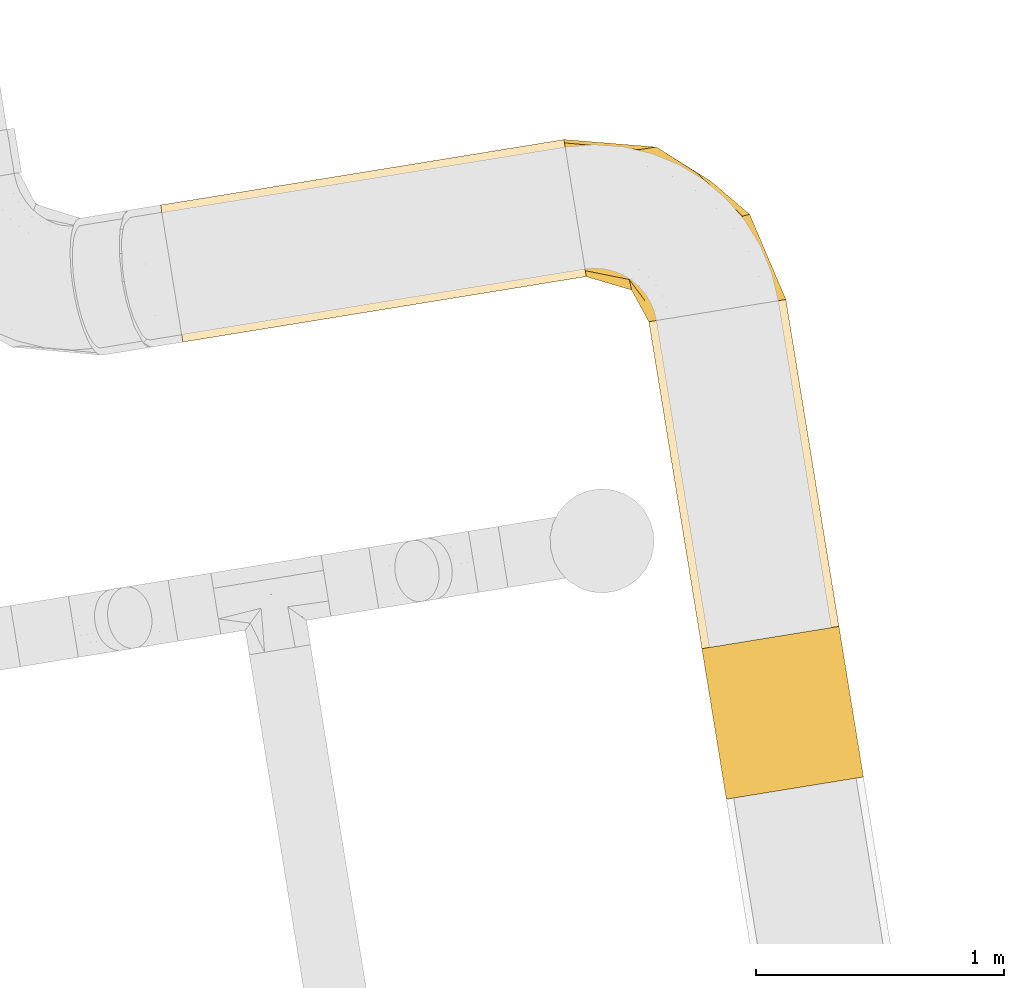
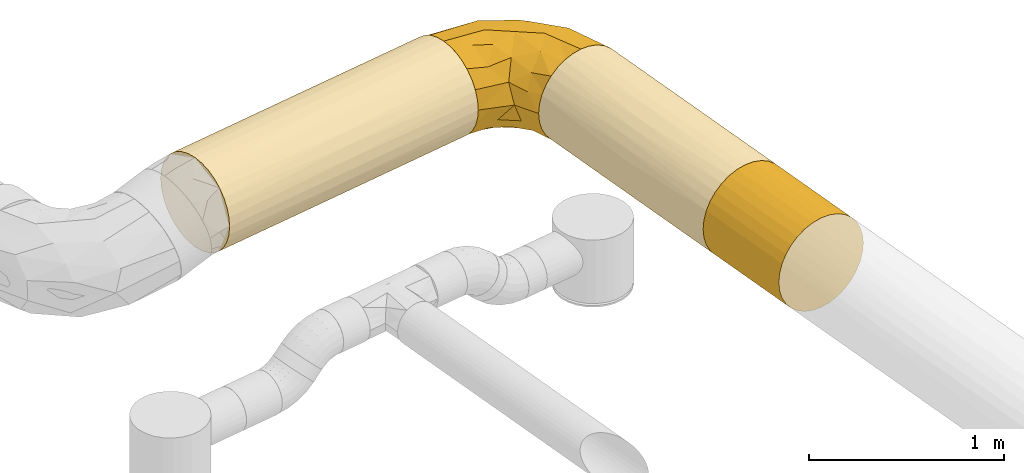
# One storey, part 6 of 39: 4 coverings.
"""IFC2X3 building model written with IfcOpenShell, lengths in millimetres."""

from ifc_helpers import new_model, entity, si_unit, converted_unit, derived_unit, direction, frame, origin, origin_with_axes, place, context, subcontext, project, spatial, faceted_brep, type_object, element, save


model = new_model("IFC2X3")

# Units and contexts
model_context = context("Model", 3, precision=0.01, world=origin(), true_north=direction((6.12323399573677e-17, 1.0)))
plan_context = context("Plan", 3, precision=1e-05, world=origin_with_axes())
body_context = subcontext(model_context, "Body", "Model", "MODEL_VIEW")
ifc_project = project(units=[converted_unit("PLANEANGLEUNIT", "DEGREE", entity("IfcPositiveLengthMeasure", 0.0174532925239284), si_unit("PLANEANGLEUNIT", "RADIAN"), dimensions=[0, 0, 0, 0, 0, 0, 0]), si_unit("AREAUNIT", "SQUARE_METRE"), si_unit("LENGTHUNIT", "METRE", prefix="MILLI"), si_unit("MASSUNIT", "GRAM", prefix="KILO"), si_unit("POWERUNIT", "WATT"), si_unit("PRESSUREUNIT", "PASCAL", prefix="KILO"), si_unit("FORCEUNIT", "NEWTON", prefix="KILO"), si_unit("ELECTRICVOLTAGEUNIT", "VOLT"), si_unit("ELECTRICCURRENTUNIT", "AMPERE"), si_unit("THERMODYNAMICTEMPERATUREUNIT", "DEGREE_CELSIUS"), si_unit("TIMEUNIT", "SECOND"), si_unit("VOLUMEUNIT", "CUBIC_METRE"), derived_unit("LINEARVELOCITYUNIT", [(si_unit("LENGTHUNIT", "METRE"), 1), (si_unit("TIMEUNIT", "SECOND"), -1)]), derived_unit("VOLUMETRICFLOWRATEUNIT", [(si_unit("VOLUMEUNIT", "CUBIC_METRE"), 1), (si_unit("TIMEUNIT", "SECOND"), -1)]), derived_unit("THERMALTRANSMITTANCEUNIT", [(si_unit("POWERUNIT", "WATT"), 1), (si_unit("THERMODYNAMICTEMPERATUREUNIT", "KELVIN"), -1), (si_unit("AREAUNIT", "SQUARE_METRE"), -1)]), derived_unit("SOUNDPRESSUREUNIT", [(si_unit("PRESSUREUNIT", "PASCAL"), 1)])], contexts=[model_context, plan_context])

# Site, building, storey
site_placement = place(None, frame((-0.00071070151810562, 0.00438415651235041, 0.0), z_axis=(0.0, 0.0, 1.0), x_axis=(-0.160236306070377, 0.987078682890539, 0.0)))
site = spatial("IfcSite", under=ifc_project, at=site_placement, Name="Default", CompositionType="ELEMENT")
building_placement = place(site_placement, origin_with_axes())
building = spatial("IfcBuilding", under=site, at=building_placement, CompositionType="ELEMENT")
storey_placement = place(building_placement, frame((0.0, 0.0, 50999.9999999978), z_axis=(0.0, 0.0, 1.0), x_axis=(1.0, 0.0, 0.0)))
storey = spatial("IfcBuildingStorey", under=building, at=storey_placement, Name="Nivå D", CompositionType="ELEMENT", Elevation=50999.9999999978)

# Coverings
covering_type = type_object("IfcCoveringType", Name="Duct Insulation:EI 60-30", PredefinedType="INSULATION")
covering_1_placement = place(storey_placement, frame((778630.02437183, -601472.905078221, 3018.40472776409), z_axis=(0.0, 0.0, 1.0), x_axis=(1.0, 0.0, 0.0)))
element("IfcCovering", 1, at=covering_1_placement, inside=storey, type_object=covering_type, Name="Duct Insulation:EI 60-30", ObjectType="Duct Insulation:EI 60-30", PredefinedType="INSULATION", context=body_context, shape_type="Brep", body=[
    faceted_brep([(22.9090031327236, 1647.76358969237, 388.746633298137), (48.7837807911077, 1647.76358969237, 437.154937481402), (83.6053735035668, 1647.76358969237, 479.585170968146), (126.03560699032, 1647.76358969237, 514.406763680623), (174.443911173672, 1647.76358969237, 540.281541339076), (226.969982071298, 1647.76358969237, 556.215150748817), (281.59527223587, 1647.76358969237, 561.59527223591), (336.220562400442, 1647.76358969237, 556.215150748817), (388.746633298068, 1647.76358969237, 540.281541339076), (437.154937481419, 1647.76358969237, 514.406763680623), (479.585170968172, 1647.76358969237, 479.585170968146), (514.406763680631, 1647.76358969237, 437.154937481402), (540.281541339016, 1647.76358969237, 388.746633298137), (556.2151507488, 1647.76358969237, 336.220562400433), (561.595272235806, 1647.76358969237, 281.595272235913), (556.2151507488, 1647.76358969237, 226.969982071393), (540.281541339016, 1647.76358969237, 174.443911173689), (514.406763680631, 1647.76358969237, 126.035606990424), (479.585170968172, 1647.76358969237, 83.6053735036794), (437.154937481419, 1647.76358969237, 48.783780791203), (388.746633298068, 1647.76358969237, 22.9090031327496), (336.220562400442, 1647.76358969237, 6.97539372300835), (281.59527223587, 1647.76358969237, 1.5952722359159), (226.969982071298, 1647.76358969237, 6.97539372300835), (174.443911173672, 1647.76358969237, 22.9090031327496), (126.03560699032, 1647.76358969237, 48.783780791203), (83.6053735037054, 1647.76358969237, 83.6053735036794), (48.7837807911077, 1647.76358969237, 126.035606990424), (22.9090031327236, 1647.76358969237, 174.443911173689), (6.97539372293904, 1647.76358969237, 226.969982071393), (1.59527223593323, 1647.76358969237, 281.595272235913), (6.97539372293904, 1647.76358969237, 336.220562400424), (174.443911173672, 0.0, 540.281541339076), (126.03560699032, 0.0, 514.406763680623), (83.6053735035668, 0.0, 479.585170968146), (48.7837807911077, 0.0, 437.154937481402), (22.9090031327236, 0.0, 388.746633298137), (6.97539372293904, 0.0, 336.220562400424), (1.59527223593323, 0.0, 281.595272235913), (6.97539372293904, 0.0, 226.969982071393), (22.9090031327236, 0.0, 174.443911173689), (48.7837807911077, 0.0, 126.035606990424), (83.6053735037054, 0.0, 83.6053735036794), (126.03560699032, 0.0, 48.783780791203), (174.443911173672, 0.0, 22.9090031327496), (226.969982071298, 0.0, 6.97539372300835), (281.59527223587, 0.0, 1.5952722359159), (336.220562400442, 0.0, 6.97539372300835), (388.746633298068, 0.0, 22.9090031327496), (437.154937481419, 0.0, 48.783780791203), (479.585170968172, 0.0, 83.6053735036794), (514.406763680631, 0.0, 126.035606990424), (540.281541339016, 0.0, 174.443911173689), (556.2151507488, 0.0, 226.969982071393), (561.595272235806, 0.0, 281.595272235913), (556.2151507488, 0.0, 336.220562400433), (540.281541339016, 0.0, 388.746633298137), (514.406763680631, 0.0, 437.154937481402), (479.585170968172, 0.0, 479.585170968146), (437.154937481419, 0.0, 514.406763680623), (388.746633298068, 0.0, 540.281541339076), (336.220562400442, 0.0, 556.215150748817), (281.59527223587, 0.0, 561.59527223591), (226.969982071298, 0.0, 556.215150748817), (561.595272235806, 584.273928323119, 281.595272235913), (554.091270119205, 823.881793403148, 217.206366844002), (528.533225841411, 823.881794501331, 149.604185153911), (489.190863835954, 823.881794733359, 93.7014981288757), (345.984175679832, 823.881794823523, 9.09927389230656), (281.59527223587, 584.273911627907, 1.5952722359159), (281.59527223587, 1063.48967775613, 1.5952722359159), (413.586358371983, 823.881794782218, 34.6573181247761), (217.206368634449, 823.881794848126, 9.09927392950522), (149.6041858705, 823.881794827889, 34.6573182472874), (9.09927394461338, 823.881794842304, 217.206368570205), (93.7014983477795, 823.881794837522, 73.9996804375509), (34.6573182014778, 823.881794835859, 149.604185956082), (1.59527223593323, 584.273910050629, 281.595272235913), (1.59527223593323, 1063.48967956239, 281.595272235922), (9.09927395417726, 823.881794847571, 345.984175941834), (34.6573182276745, 823.881794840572, 413.586358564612), (217.206368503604, 823.881794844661, 554.09127051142), (73.9996804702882, 823.881794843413, 469.489046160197), (149.60418593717, 823.881794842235, 528.53322626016), (281.59527223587, 584.273909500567, 561.59527223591), (281.59527223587, 1063.48968015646, 561.59527223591), (345.984175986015, 823.881794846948, 554.091270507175), (413.586358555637, 823.881794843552, 528.533226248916), (554.09127050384, 823.881794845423, 345.984175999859), (469.489046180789, 823.881794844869, 489.190863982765), (528.533226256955, 823.881794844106, 413.586358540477)], [[[0, 1, 2, 3, 4, 5, 6, 7, 8, 9, 10, 11, 12, 13, 14, 15, 16, 17, 18, 19, 20, 21, 22, 23, 24, 25, 26, 27, 28, 29, 30, 31]], [[32, 33, 34, 35, 36, 37, 38, 39, 40, 41, 42, 43, 44, 45, 46, 47, 48, 49, 50, 51, 52, 53, 54, 55, 56, 57, 58, 59, 60, 61, 62, 63]], [[64, 53, 65]], [[64, 65, 14]], [[15, 14, 65]], [[66, 52, 51]], [[66, 65, 52]], [[54, 53, 64]], [[51, 50, 67]], [[65, 16, 15]], [[68, 69, 70, 22]], [[19, 71, 20]], [[17, 66, 67]], [[48, 47, 68]], [[18, 17, 67]], [[16, 66, 17]], [[71, 49, 48]], [[69, 68, 47]], [[67, 50, 49]], [[22, 21, 68]], [[67, 71, 19]], [[71, 67, 49]], [[19, 18, 67]], [[20, 71, 68]], [[48, 68, 71]], [[20, 68, 21]], [[52, 65, 53]], [[16, 65, 66]], [[51, 67, 66]], [[47, 46, 69]], [[72, 70, 69, 46]], [[70, 72, 23]], [[73, 44, 43]], [[73, 72, 44]], [[72, 46, 45]], [[23, 22, 70]], [[72, 24, 23]], [[40, 39, 74]], [[24, 73, 25]], [[25, 73, 75]], [[43, 42, 75]], [[26, 25, 75]], [[76, 41, 40]], [[75, 42, 41]], [[77, 74, 39]], [[40, 74, 76]], [[43, 75, 73]], [[30, 29, 74]], [[75, 76, 27]], [[76, 75, 41]], [[27, 26, 75]], [[28, 76, 74]], [[24, 72, 73]], [[39, 38, 77]], [[44, 72, 45]], [[74, 77, 78, 30]], [[28, 74, 29]], [[27, 76, 28]], [[79, 78, 77, 38]], [[78, 79, 31]], [[80, 36, 35]], [[80, 79, 36]], [[79, 38, 37]], [[31, 30, 78]], [[79, 0, 31]], [[32, 63, 81]], [[0, 80, 1]], [[1, 80, 82]], [[35, 34, 82]], [[2, 1, 82]], [[83, 33, 32]], [[82, 34, 33]], [[84, 81, 63]], [[32, 81, 83]], [[35, 82, 80]], [[6, 5, 81]], [[82, 83, 3]], [[83, 82, 33]], [[3, 2, 82]], [[4, 83, 81]], [[0, 79, 80]], [[63, 62, 84]], [[36, 79, 37]], [[81, 84, 85, 6]], [[4, 81, 5]], [[3, 83, 4]], [[86, 85, 84, 62]], [[85, 86, 7]], [[87, 60, 59]], [[87, 86, 60]], [[86, 62, 61]], [[7, 6, 85]], [[86, 8, 7]], [[56, 55, 88]], [[8, 87, 9]], [[9, 87, 89]], [[59, 58, 89]], [[10, 9, 89]], [[90, 57, 56]], [[89, 58, 57]], [[64, 88, 55]], [[56, 88, 90]], [[59, 89, 87]], [[14, 13, 88]], [[89, 90, 11]], [[90, 89, 57]], [[11, 10, 89]], [[12, 90, 88]], [[8, 86, 87]], [[55, 54, 64]], [[60, 86, 61]], [[14, 88, 64]], [[12, 88, 13]], [[11, 90, 12]]]),
])
covering_2_placement = place(storey_placement, frame((778410.02437183, -602254.500350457, 3018.40472776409), z_axis=(0.0, 0.0, 1.0), x_axis=(1.0, 0.0, 0.0)))
element("IfcCovering", 2, at=covering_2_placement, inside=storey, type_object=covering_type, Name="Duct Insulation:EI 60-30", ObjectType="Duct Insulation:EI 60-30", PredefinedType="INSULATION", context=body_context, shape_type="Brep", body=[
    faceted_brep([(314.242362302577, 781.595272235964, 489.679118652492), (415.076666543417, 781.595272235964, 547.89309586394), (501.595272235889, 781.595272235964, 561.59527223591), (615.484094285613, 781.595272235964, 537.386859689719), (709.679118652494, 781.595272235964, 468.948182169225), (767.893095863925, 781.595272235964, 368.113877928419), (781.595272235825, 781.595272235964, 281.595272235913), (757.386859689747, 781.595272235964, 167.70645018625), (688.948182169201, 781.595272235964, 73.5114258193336), (588.11387792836, 781.595272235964, 15.2974486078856), (501.595272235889, 781.595272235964, 1.5952722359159), (387.706450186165, 781.595272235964, 25.8036847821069), (293.511425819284, 781.595272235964, 94.2423623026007), (235.297448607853, 781.595272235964, 195.076666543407), (221.595272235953, 781.595272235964, 281.595272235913), (245.803684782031, 781.595272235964, 395.484094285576), (1.59527223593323, 83.6053735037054, 479.585170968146), (1.59527223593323, 184.307687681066, 521.297435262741), (1.59527223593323, 281.595272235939, 561.59527223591), (1.59527223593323, 380.590221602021, 520.590221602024), (1.59527223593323, 479.585170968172, 479.585170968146), (1.59527223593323, 520.590221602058, 380.59022160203), (1.59527223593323, 561.595272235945, 281.595272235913), (1.59527223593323, 520.590221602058, 182.600322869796), (1.59527223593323, 479.585170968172, 83.6053735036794), (1.59527223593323, 379.324750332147, 42.0761475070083), (1.59527223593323, 281.595272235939, 1.5952722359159), (1.59527223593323, 182.600322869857, 42.600322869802), (1.59527223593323, 83.6053735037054, 83.6053735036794), (1.59527223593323, 43.1967885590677, 181.16032731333), (1.59527223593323, 1.59527223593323, 281.595272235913), (1.59527223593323, 43.1967885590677, 382.030217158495), (364.079346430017, 90.9395722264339, 281.595272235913), (361.618279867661, 120.868074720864, 402.716458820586), (575.189166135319, 498.949635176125, 524.3981054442), (256.720767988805, 154.955553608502, 498.892245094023), (528.165159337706, 255.025385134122, 281.595272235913), (228.590522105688, 336.092010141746, 561.59527223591), (136.470959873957, 313.976059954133, 561.59527223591), (387.378478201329, 312.38118610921, 540.159336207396), (447.098534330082, 554.600022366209, 561.59527223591), (692.776605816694, 489.235515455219, 406.753431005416), (500.080324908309, 288.480079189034, 476.345362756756), (562.56091971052, 273.649306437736, 393.274781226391), (692.250972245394, 419.11119804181, 281.595272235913), (469.214480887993, 646.719569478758, 561.59527223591), (337.844528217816, 445.346016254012, 561.59527223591), (145.848678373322, 431.648014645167, 533.866794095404), (276.852516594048, 672.104371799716, 473.635820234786), (182.243653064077, 612.395087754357, 402.6331450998), (235.136222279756, 552.077394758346, 502.105052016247), (112.294374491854, 520.197366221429, 459.608105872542), (89.6255911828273, 564.05116754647, 371.068056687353), (396.052196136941, 676.074870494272, 546.162908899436), (343.103647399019, 585.898526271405, 540.593694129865), (192.232774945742, 720.623418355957, 281.595272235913), (138.763028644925, 609.592346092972, 281.595272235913), (210.816376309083, 660.614093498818, 173.560467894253), (126.274853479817, 574.678497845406, 173.810009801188), (337.844528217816, 445.346016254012, 1.5952722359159), (228.590522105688, 336.092010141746, 1.5952722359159), (227.189540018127, 465.043393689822, 24.6609938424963), (113.335738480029, 406.935822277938, 23.6962073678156), (136.47096092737, 313.976060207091, 1.5952722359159), (110.971999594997, 509.55973223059, 92.8255278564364), (211.489803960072, 572.844191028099, 89.773668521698), (327.633025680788, 573.027755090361, 25.3915466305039), (447.098534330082, 554.600022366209, 1.5952722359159), (271.926320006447, 669.744341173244, 93.5332174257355), (469.214482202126, 646.719574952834, 1.5952722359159), (356.110704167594, 687.671341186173, 35.3363256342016), (349.540548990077, 287.376253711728, 21.7927339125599), (488.831442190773, 294.359085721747, 75.0575648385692), (250.738461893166, 152.327538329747, 64.4689088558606), (543.975815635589, 493.792877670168, 25.8571614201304), (286.322785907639, 77.5943611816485, 176.181369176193), (521.965935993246, 225.001830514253, 182.714761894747), (676.755960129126, 484.820865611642, 133.304048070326)], [[[0, 1, 2, 3, 4, 5, 6, 7, 8, 9, 10, 11, 12, 13, 14, 15]], [[16, 17, 18, 19, 20, 21, 22, 23, 24, 25, 26, 27, 28, 29, 30, 31]], [[31, 32, 33]], [[34, 4, 3]], [[35, 17, 16]], [[33, 32, 36]], [[17, 37, 38, 18]], [[35, 39, 17]], [[39, 37, 17]], [[40, 39, 34]], [[41, 42, 43]], [[31, 33, 16]], [[44, 6, 5]], [[33, 42, 35]], [[34, 39, 42]], [[5, 4, 41]], [[34, 2, 45, 40]], [[34, 41, 4]], [[33, 35, 16]], [[32, 31, 30]], [[41, 43, 44]], [[5, 41, 44]], [[39, 40, 46, 37]], [[35, 42, 39]], [[41, 34, 42]], [[34, 3, 2]], [[43, 42, 33]], [[33, 36, 43]], [[44, 43, 36]], [[38, 47, 19]], [[48, 49, 50]], [[21, 51, 52]], [[49, 52, 51]], [[20, 51, 21]], [[47, 51, 20]], [[47, 46, 50]], [[14, 49, 15]], [[45, 2, 1]], [[53, 48, 54]], [[51, 50, 49]], [[46, 54, 50]], [[53, 0, 48]], [[49, 14, 55, 56]], [[52, 22, 21]], [[51, 47, 50]], [[54, 46, 40]], [[48, 0, 15]], [[47, 20, 19]], [[38, 37, 47]], [[19, 18, 38]], [[49, 48, 15]], [[48, 50, 54]], [[47, 37, 46]], [[1, 53, 45]], [[45, 53, 40]], [[0, 53, 1]], [[40, 53, 54]], [[49, 56, 52]], [[22, 52, 56]], [[57, 58, 56]], [[59, 60, 61]], [[62, 63, 25]], [[64, 58, 65]], [[61, 65, 66]], [[55, 57, 56]], [[13, 55, 14]], [[64, 65, 61]], [[67, 59, 66]], [[68, 13, 12]], [[64, 61, 62]], [[57, 68, 65]], [[11, 10, 69]], [[66, 70, 67]], [[57, 65, 58]], [[58, 64, 23]], [[59, 61, 66]], [[57, 55, 13]], [[23, 22, 58]], [[22, 56, 58]], [[70, 11, 69]], [[68, 66, 65]], [[11, 70, 12]], [[64, 24, 23]], [[13, 68, 57]], [[68, 12, 70]], [[62, 25, 24]], [[64, 62, 24]], [[61, 60, 62]], [[63, 62, 60]], [[63, 26, 25]], [[70, 69, 67]], [[68, 70, 66]], [[71, 72, 73]], [[71, 26, 63, 60]], [[74, 67, 69, 10]], [[73, 28, 27]], [[28, 73, 75]], [[71, 60, 59, 67]], [[72, 76, 75]], [[7, 44, 77]], [[74, 72, 71]], [[27, 71, 73]], [[74, 8, 77]], [[32, 30, 75]], [[27, 26, 71]], [[77, 76, 72]], [[44, 7, 6]], [[77, 72, 74]], [[44, 76, 77]], [[7, 77, 8]], [[75, 76, 32]], [[74, 10, 9]], [[30, 29, 28, 75]], [[76, 44, 36, 32]], [[67, 74, 71]], [[74, 9, 8]], [[72, 75, 73]]]),
])
covering_3_placement = place(storey_placement, frame((777076.258803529, -602254.500350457, 3018.40472776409), z_axis=(0.0, 0.0, 1.0), x_axis=(1.0, 0.0, 0.0)))
element("IfcCovering", 3, at=covering_3_placement, inside=storey, type_object=covering_type, Name="Duct Insulation:EI 60-30", ObjectType="Duct Insulation:EI 60-30", PredefinedType="INSULATION", context=body_context, shape_type="Brep", body=[
    faceted_brep([(0.0, 48.7837807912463, 126.035606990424), (0.0, 22.9090031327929, 174.443911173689), (0.0, 6.97539372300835, 226.969982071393), (0.0, 1.59527223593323, 281.595272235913), (0.0, 6.97539372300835, 336.220562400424), (0.0, 22.9090031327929, 388.746633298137), (0.0, 48.7837807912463, 437.154937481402), (0.0, 83.6053735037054, 479.585170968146), (0.0, 126.035606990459, 514.406763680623), (0.0, 174.443911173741, 540.281541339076), (0.0, 226.969982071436, 556.215150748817), (0.0, 281.595272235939, 561.59527223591), (0.0, 336.220562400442, 556.215150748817), (0.0, 388.746633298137, 540.281541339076), (0.0, 437.154937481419, 514.406763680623), (0.0, 479.585170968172, 479.585170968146), (0.0, 514.406763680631, 437.154937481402), (0.0, 540.281541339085, 388.746633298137), (0.0, 556.215150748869, 336.220562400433), (0.0, 561.595272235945, 281.595272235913), (0.0, 556.215150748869, 226.969982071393), (0.0, 540.281541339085, 174.443911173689), (0.0, 514.406763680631, 126.035606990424), (0.0, 479.585170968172, 83.6053735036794), (0.0, 437.154937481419, 48.783780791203), (0.0, 388.746633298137, 22.9090031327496), (0.0, 336.220562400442, 6.97539372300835), (0.0, 281.595272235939, 1.5952722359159), (0.0, 226.969982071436, 6.97539372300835), (0.0, 174.443911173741, 22.9090031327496), (0.0, 126.035606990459, 48.783780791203), (0.0, 83.6053735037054, 83.6053735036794), (1335.36084053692, 22.9090031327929, 388.746633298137), (1335.36084053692, 6.97539372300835, 336.220562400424), (1335.36084053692, 1.59527223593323, 281.595272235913), (1335.36084053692, 6.97539372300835, 226.969982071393), (1335.36084053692, 22.9090031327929, 174.443911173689), (1335.36084053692, 48.7837807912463, 126.035606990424), (1335.36084053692, 83.6053735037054, 83.6053735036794), (1335.36084053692, 126.035606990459, 48.783780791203), (1335.36084053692, 174.443911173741, 22.9090031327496), (1335.36084053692, 226.969982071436, 6.97539372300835), (1335.36084053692, 281.595272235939, 1.5952722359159), (1335.36084053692, 336.220562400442, 6.97539372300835), (1335.36084053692, 388.746633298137, 22.9090031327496), (1335.36084053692, 437.154937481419, 48.783780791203), (1335.36084053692, 479.585170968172, 83.6053735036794), (1335.36084053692, 514.406763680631, 126.035606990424), (1335.36084053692, 540.281541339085, 174.443911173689), (1335.36084053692, 556.215150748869, 226.969982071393), (1335.36084053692, 561.595272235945, 281.595272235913), (1335.36084053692, 556.215150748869, 336.220562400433), (1335.36084053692, 540.281541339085, 388.746633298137), (1335.36084053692, 514.406763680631, 437.154937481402), (1335.36084053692, 479.585170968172, 479.585170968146), (1335.36084053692, 437.154937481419, 514.406763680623), (1335.36084053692, 388.746633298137, 540.281541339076), (1335.36084053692, 336.220562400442, 556.215150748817), (1335.36084053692, 281.595272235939, 561.59527223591), (1335.36084053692, 226.969982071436, 556.215150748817), (1335.36084053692, 174.443911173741, 540.281541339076), (1335.36084053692, 126.035606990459, 514.406763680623), (1335.36084053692, 83.6053735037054, 479.585170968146), (1335.36084053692, 48.7837807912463, 437.154937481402), (667.68042182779, 556.411894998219, 227.968563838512), (751.086907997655, 561.595272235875, 281.595272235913), (667.680420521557, 528.533225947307, 149.604185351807), (667.680420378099, 495.360657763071, 100.751804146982), (751.086928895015, 281.595272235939, 1.5952722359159), (667.680420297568, 358.86344695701, 12.4677389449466), (667.680420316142, 413.586358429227, 34.6573181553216), (758.552857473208, 457.603808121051, 63.8316497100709), (584.273911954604, 281.595272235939, 1.5952722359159), (667.680420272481, 227.968565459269, 6.7786491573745), (667.68042028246, 149.604185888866, 34.6573182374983), (667.680420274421, 12.4677389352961, 204.327097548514), (667.680420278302, 100.751804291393, 67.8298865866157), (667.6804202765, 34.6573182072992, 149.604185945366), (758.55286011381, 63.8316498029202, 105.586736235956), (751.086930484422, 1.59527223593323, 281.595272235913), (584.273910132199, 1.59527223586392, 281.595272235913), (667.680420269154, 6.77864917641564, 335.221979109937), (667.680420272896, 34.6573182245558, 413.586358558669), (667.680420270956, 204.32709757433, 550.722805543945), (667.680420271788, 67.8298866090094, 462.438740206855), (667.680420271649, 149.604185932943, 528.533226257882), (758.552860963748, 105.586736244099, 499.358894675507), (751.086931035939, 281.595272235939, 561.59527223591), (584.273909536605, 281.595272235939, 561.59527223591), (667.680420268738, 335.221979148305, 556.411895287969), (667.68042027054, 413.586358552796, 528.533226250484), (667.680420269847, 550.722805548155, 358.863446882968), (667.680420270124, 462.438740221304, 495.360657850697), (667.680420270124, 528.533226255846, 413.58635854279), (758.552861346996, 499.358894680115, 457.60380822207)], [[[0, 1, 2, 3, 4, 5, 6, 7, 8, 9, 10, 11, 12, 13, 14, 15, 16, 17, 18, 19, 20, 21, 22, 23, 24, 25, 26, 27, 28, 29, 30, 31]], [[32, 33, 34, 35, 36, 37, 38, 39, 40, 41, 42, 43, 44, 45, 46, 47, 48, 49, 50, 51, 52, 53, 54, 55, 56, 57, 58, 59, 60, 61, 62, 63]], [[64, 65, 49]], [[65, 64, 19]], [[21, 64, 66]], [[66, 48, 47]], [[66, 64, 48]], [[50, 49, 65]], [[47, 46, 67]], [[64, 21, 20]], [[68, 26, 69]], [[24, 70, 25]], [[22, 66, 67]], [[44, 43, 69]], [[23, 22, 67]], [[21, 66, 22]], [[70, 45, 44]], [[68, 69, 43]], [[26, 25, 69]], [[46, 71, 67]], [[44, 69, 70]], [[26, 68, 72, 27]], [[43, 42, 68]], [[24, 23, 71]], [[70, 71, 45]], [[23, 67, 71]], [[25, 70, 69]], [[46, 45, 71]], [[47, 67, 66]], [[64, 49, 48]], [[19, 64, 20]], [[24, 71, 70]], [[73, 28, 72]], [[74, 29, 73]], [[74, 40, 39]], [[74, 73, 40]], [[73, 42, 41]], [[28, 27, 72]], [[73, 29, 28]], [[36, 35, 75]], [[29, 74, 30]], [[30, 74, 76]], [[39, 38, 76]], [[31, 30, 76]], [[77, 37, 36]], [[38, 78, 76]], [[2, 1, 75]], [[38, 37, 78]], [[0, 78, 77]], [[2, 79, 80, 3]], [[35, 34, 79]], [[0, 31, 78]], [[77, 78, 37]], [[31, 76, 78]], [[1, 77, 75]], [[73, 41, 40]], [[73, 72, 68, 42]], [[79, 2, 75]], [[39, 76, 74]], [[36, 75, 77]], [[79, 75, 35]], [[0, 77, 1]], [[81, 4, 80]], [[82, 5, 81]], [[82, 32, 63]], [[82, 81, 32]], [[81, 34, 33]], [[4, 3, 80]], [[81, 5, 4]], [[60, 59, 83]], [[5, 82, 6]], [[6, 82, 84]], [[63, 62, 84]], [[7, 6, 84]], [[85, 61, 60]], [[62, 86, 84]], [[10, 9, 83]], [[62, 61, 86]], [[8, 86, 85]], [[10, 87, 88, 11]], [[59, 58, 87]], [[8, 7, 86]], [[85, 86, 61]], [[7, 84, 86]], [[9, 85, 83]], [[81, 33, 32]], [[81, 80, 79, 34]], [[87, 10, 83]], [[63, 84, 82]], [[60, 83, 85]], [[87, 83, 59]], [[8, 85, 9]], [[89, 12, 88]], [[90, 13, 89]], [[90, 56, 55]], [[90, 89, 56]], [[89, 58, 57]], [[12, 11, 88]], [[89, 13, 12]], [[52, 51, 91]], [[13, 90, 14]], [[14, 90, 92]], [[55, 54, 92]], [[15, 14, 92]], [[93, 53, 52]], [[54, 94, 92]], [[18, 17, 91]], [[54, 53, 94]], [[16, 94, 93]], [[65, 19, 18]], [[51, 50, 65]], [[16, 15, 94]], [[93, 94, 53]], [[15, 92, 94]], [[17, 93, 91]], [[89, 57, 56]], [[89, 88, 87, 58]], [[65, 18, 91]], [[55, 92, 90]], [[52, 91, 93]], [[65, 91, 51]], [[16, 93, 17]]]),
])
covering_4_placement = place(storey_placement, frame((776461.258803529, -602254.500350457, 3018.40472776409), z_axis=(0.0, 0.0, 1.0), x_axis=(1.0, 0.0, 0.0)))
element("IfcCovering", 4, at=covering_4_placement, inside=storey, type_object=covering_type, Name="Duct Insulation:EI 60-30", ObjectType="Duct Insulation:EI 60-30", PredefinedType="INSULATION", context=body_context, shape_type="Brep", body=[
    faceted_brep([(0.0, 174.443911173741, 22.9090031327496), (0.0, 126.035606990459, 48.783780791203), (0.0, 83.6053735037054, 83.6053735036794), (0.0, 48.7837807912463, 126.035606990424), (0.0, 22.9090031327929, 174.443911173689), (0.0, 6.97539372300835, 226.969982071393), (0.0, 1.59527223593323, 281.595272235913), (0.0, 6.97539372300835, 336.220562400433), (0.0, 22.9090031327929, 388.746633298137), (0.0, 48.7837807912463, 437.154937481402), (0.0, 83.6053735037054, 479.585170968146), (0.0, 126.035606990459, 514.406763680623), (0.0, 174.443911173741, 540.281541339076), (0.0, 226.969982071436, 556.215150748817), (0.0, 281.595272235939, 561.59527223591), (0.0, 336.220562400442, 556.215150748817), (0.0, 388.746633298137, 540.281541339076), (0.0, 437.154937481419, 514.406763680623), (0.0, 479.585170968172, 479.585170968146), (0.0, 514.406763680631, 437.154937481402), (0.0, 540.281541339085, 388.746633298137), (0.0, 556.215150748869, 336.220562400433), (0.0, 561.595272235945, 281.595272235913), (0.0, 556.215150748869, 226.969982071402), (0.0, 540.281541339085, 174.443911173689), (0.0, 514.406763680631, 126.035606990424), (0.0, 479.585170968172, 83.6053735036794), (0.0, 437.154937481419, 48.783780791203), (0.0, 388.746633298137, 22.9090031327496), (0.0, 336.220562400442, 6.97539372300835), (0.0, 281.595272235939, 1.5952722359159), (0.0, 226.969982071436, 6.97539372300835), (615.0, 336.220562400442, 556.215150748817), (615.0, 281.595272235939, 561.59527223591), (615.0, 226.969982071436, 556.215150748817), (615.0, 174.443911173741, 540.281541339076), (615.0, 126.035606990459, 514.406763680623), (615.0, 83.6053735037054, 479.585170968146), (615.0, 48.7837807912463, 437.154937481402), (615.0, 22.9090031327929, 388.746633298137), (615.0, 6.97539372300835, 336.220562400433), (615.0, 1.59527223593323, 281.595272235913), (615.0, 6.97539372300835, 226.969982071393), (615.0, 22.9090031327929, 174.443911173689), (615.0, 48.7837807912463, 126.035606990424), (615.0, 83.6053735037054, 83.6053735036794), (615.0, 126.035606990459, 48.783780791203), (615.0, 174.443911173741, 22.9090031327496), (615.0, 226.969982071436, 6.97539372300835), (615.0, 281.595272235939, 1.5952722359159), (615.0, 336.220562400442, 6.97539372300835), (615.0, 388.746633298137, 22.9090031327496), (615.0, 437.154937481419, 48.783780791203), (615.0, 479.585170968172, 83.6053735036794), (615.0, 514.406763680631, 126.035606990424), (615.0, 540.281541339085, 174.443911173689), (615.0, 556.215150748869, 226.969982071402), (615.0, 561.595272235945, 281.595272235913), (615.0, 556.215150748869, 336.220562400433), (615.0, 540.281541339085, 388.746633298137), (615.0, 514.406763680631, 437.154937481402), (615.0, 479.585170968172, 479.585170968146), (615.0, 437.154937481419, 514.406763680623), (615.0, 388.746633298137, 540.281541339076)], [[[0, 1, 2, 3, 4, 5, 6, 7, 8, 9, 10, 11, 12, 13, 14, 15, 16, 17, 18, 19, 20, 21, 22, 23, 24, 25, 26, 27, 28, 29, 30, 31]], [[32, 33, 34, 35, 36, 37, 38, 39, 40, 41, 42, 43, 44, 45, 46, 47, 48, 49, 50, 51, 52, 53, 54, 55, 56, 57, 58, 59, 60, 61, 62, 63]], [[39, 38, 9, 8]], [[9, 38, 37, 10]], [[6, 41, 40, 7]], [[39, 8, 7, 40]], [[11, 36, 35, 12]], [[12, 35, 34, 13]], [[13, 34, 33, 14]], [[10, 37, 36, 11]], [[15, 32, 63, 16]], [[16, 63, 62, 17]], [[17, 62, 61, 18]], [[33, 32, 15, 14]], [[19, 60, 59, 20]], [[20, 59, 58, 21]], [[21, 58, 57, 22]], [[18, 61, 60, 19]], [[23, 56, 55, 24]], [[24, 55, 54, 25]], [[25, 54, 53, 26]], [[57, 56, 23, 22]], [[27, 52, 51, 28]], [[28, 51, 50, 29]], [[29, 50, 49, 30]], [[26, 53, 52, 27]], [[31, 48, 47, 0]], [[0, 47, 46, 1]], [[1, 46, 45, 2]], [[49, 48, 31, 30]], [[3, 44, 43, 4]], [[4, 43, 42, 5]], [[5, 42, 41, 6]], [[2, 45, 44, 3]]]),
])

save(model, "model.ifc")
